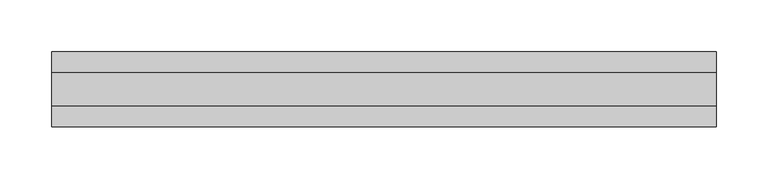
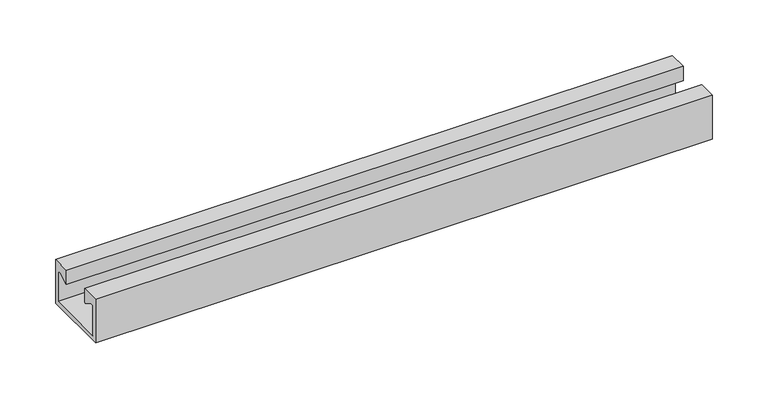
"""IFC4 building model written with IfcOpenShell, lengths in millimetres: fastener geometry, JM W JORDAHL® Mounting Channels : JM W72/48 - L."""

from ifc_helpers import new_model, si_unit, frame, origin, place, context, project, spatial, polyline, outline, extrude, source, transform, mapped, element, save


def fastener_5b24951e(model_context):
    return source(origin(), model_context, "Body", "SweptSolid", [
        extrude(outline(polyline([(-16.5, 48.0), (-16.5, 32.5), (-17.5, 32.5), (-27.0262794, 38.0), (-31.0, 38.0), (-31.0, 5.0), (31.0, 5.0), (31.0, 38.0), (27.0262794, 38.0), (17.5, 32.5), (16.5, 32.5), (16.5, 48.0), (36.0, 48.0), (36.0, 0.0), (-36.0, 0.0), (-36.0, 48.0), (-16.5, 48.0)])), frame((0.0, 0.0, 0.0), z_axis=(1.0, 0.0, 0.0), x_axis=(0.0, 1.0, 0.0)), (0.0, 0.0, 1.0), 640.0),
    ])


if __name__ == "__main__":
    model = new_model("IFC4")
    model_context = context("Model", 3, world=origin())
    ifc_project = project(units=[si_unit("LENGTHUNIT", "METRE", prefix="MILLI")], contexts=[model_context])
    site = spatial("IfcSite", under=ifc_project)
    building = spatial("IfcBuilding", under=site)
    placement = place(None, origin())
    fastener_shape = fastener_5b24951e(model_context)
    element("IfcFastener", 1, ObjectType="JM W JORDAHL® Mounting Channels : JM W72/48 - L", at=placement, inside=building, context=model_context, shape_type="MappedRepresentation", body=[
        mapped(fastener_shape, transform((0.0, 0.0, 0.0), x_axis=(1.0, 0.0, 0.0), y_axis=(0.0, 1.0, 0.0), z_axis=(0.0, 0.0, 1.0))),
    ])
    save(model, "model.ifc")
